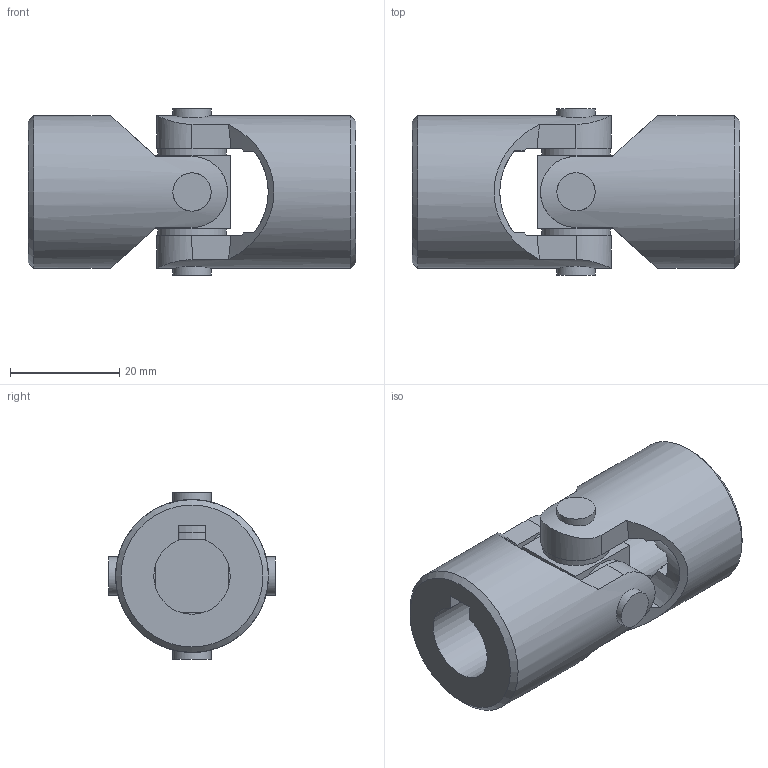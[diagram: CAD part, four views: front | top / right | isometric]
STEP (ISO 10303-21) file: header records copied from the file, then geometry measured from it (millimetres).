
FILE_DESCRIPTION(/* description */ ('EXTENSIBLE TRANSIMISSIONS Series G DIN 808 -2-'),/* implementation_level */ '2;1');
FILE_NAME(/* name */ '\\SRV2016\societa\Stefano\Disegni 3D\0Catalogo 3D\13Singoli X\Ø28_05X_SX0S142C.stp',/* time_stamp */ '2023-05-12T15:53:25+02:00',/* author */ ('acquisti'),/* organization */ ('MARIOFERRI'),/* preprocessor_version */ 'ST-DEVELOPER v15.6',/* originating_system */ 'Autodesk Inventor 2015',/* authorisation */ '');
FILE_SCHEMA (('AUTOMOTIVE_DESIGN { 1 0 10303 214 3 1 1 }'));
Length unit declared in the file: millimetre
Products named in the file (3): 05X SFE; 05X MOC; Ø28_05X_SX0S1400
Assembly tree (3 placements, depth 2):
  Ø28_05X_SX0S1400
    05X SFE
    05X MOC  x2
Bounding box: 60 x 30.5 x 30.5 mm (x, y, z)
Volume: 24113.4 mm3; surface area: 10289.2 mm2
Topology: 3 solids, 3 shells, 70 faces, 182 edges, 124 vertices
Faces by surface type: plane 38, cylinder 18, cone 12, torus 2
Full cylindrical faces by diameter (mm): 7 x4, 12.5 x4, 28 x2
Entity records: 1439 total; most frequent: CARTESIAN_POINT 460, DIRECTION 187, ORIENTED_EDGE 182, EDGE_CURVE 91, AXIS2_PLACEMENT_3D 77, VERTEX_POINT 67, EDGE_LOOP 58, FACE_OUTER_BOUND 42
